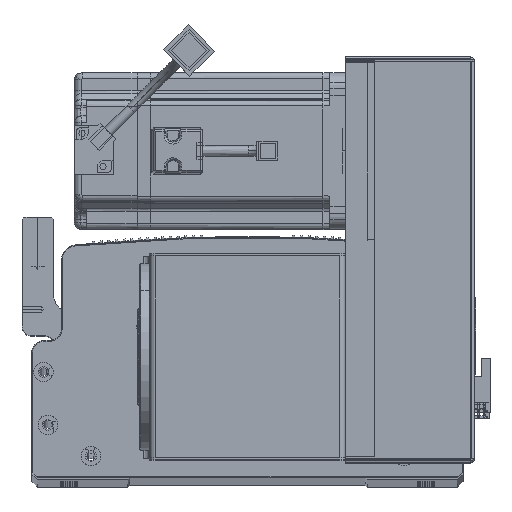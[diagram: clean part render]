
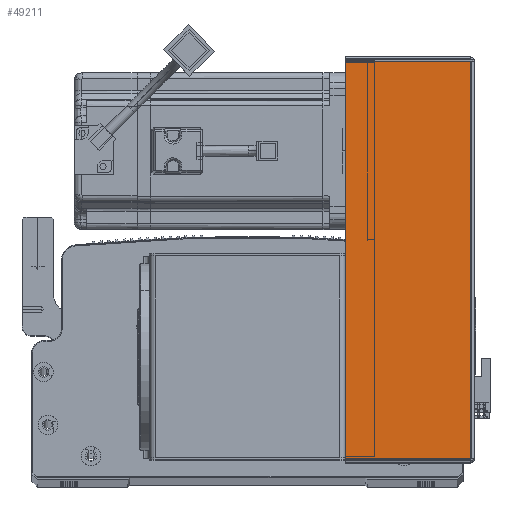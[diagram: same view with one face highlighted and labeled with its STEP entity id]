
A CAD part, top view. The second image highlights one B-rep face of the part: STEP entity #49211.
In plain terms, the highlighted planar face has unit normal (0, 0, 1) as drawn and (0, -1, 0) by its records, which use the part's own axes.
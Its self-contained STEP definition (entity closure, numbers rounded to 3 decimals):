
#537 = EDGE_CURVE ( 'NONE', #76809, #27865, #23240, .T. ) ;
#597 = PLANE ( 'NONE',  #91234 ) ;
#6263 = VERTEX_POINT ( 'NONE', #86089 ) ;
#7178 = CARTESIAN_POINT ( 'NONE',  ( 0., -1.5, -0.707 ) ) ;
#8121 = CARTESIAN_POINT ( 'NONE',  ( 0., -1.5, 0. ) ) ;
#8571 = VECTOR ( 'NONE', #12888, 1000. ) ;
#10910 = DIRECTION ( 'NONE',  ( 0., 0., 1. ) ) ;
#12888 = DIRECTION ( 'NONE',  ( 1., 0., 0. ) ) ;
#16580 = VECTOR ( 'NONE', #10910, 1000. ) ;
#18352 = EDGE_CURVE ( 'NONE', #76809, #6263, #83960, .T. ) ;
#23240 = LINE ( 'NONE', #62805, #8571 ) ;
#24091 = VECTOR ( 'NONE', #62739, 1000. ) ;
#26156 = CARTESIAN_POINT ( 'NONE',  ( 0.737, -1.5, 0. ) ) ;
#27865 = VERTEX_POINT ( 'NONE', #88740 ) ;
#29585 = DIRECTION ( 'NONE',  ( 0., 1., 0. ) ) ;
#29716 = CARTESIAN_POINT ( 'NONE',  ( 64.5, -1.5, -0.707 ) ) ;
#29906 = DIRECTION ( 'NONE',  ( -1., 0., 0. ) ) ;
#30238 = CARTESIAN_POINT ( 'NONE',  ( 64.5, -1.5, 0. ) ) ;
#31618 = ORIENTED_EDGE ( 'NONE', *, *, #88145, .T. ) ;
#41287 = EDGE_LOOP ( 'NONE', ( #72115, #85627, #31618, #52011 ) ) ;
#49211 = ADVANCED_FACE ( 'NONE', ( #61669 ), #597, .F. ) ;
#51877 = CARTESIAN_POINT ( 'NONE',  ( 0.737, -1.5, -203.293 ) ) ;
#52011 = ORIENTED_EDGE ( 'NONE', *, *, #85589, .F. ) ;
#53100 = VERTEX_POINT ( 'NONE', #29716 ) ;
#61669 = FACE_OUTER_BOUND ( 'NONE', #41287, .T. ) ;
#62739 = DIRECTION ( 'NONE',  ( 0., 0., 1. ) ) ;
#62805 = CARTESIAN_POINT ( 'NONE',  ( 0., -1.5, -203.293 ) ) ;
#64301 = LINE ( 'NONE', #7178, #75657 ) ;
#72115 = ORIENTED_EDGE ( 'NONE', *, *, #18352, .F. ) ;
#74269 = LINE ( 'NONE', #30238, #16580 ) ;
#75657 = VECTOR ( 'NONE', #86127, 1000. ) ;
#76809 = VERTEX_POINT ( 'NONE', #51877 ) ;
#83960 = LINE ( 'NONE', #26156, #24091 ) ;
#85589 = EDGE_CURVE ( 'NONE', #6263, #53100, #64301, .T. ) ;
#85627 = ORIENTED_EDGE ( 'NONE', *, *, #537, .T. ) ;
#86089 = CARTESIAN_POINT ( 'NONE',  ( 0.737, -1.5, -0.707 ) ) ;
#86127 = DIRECTION ( 'NONE',  ( 1., 0., 0. ) ) ;
#88145 = EDGE_CURVE ( 'NONE', #27865, #53100, #74269, .T. ) ;
#88740 = CARTESIAN_POINT ( 'NONE',  ( 64.5, -1.5, -203.293 ) ) ;
#91234 = AXIS2_PLACEMENT_3D ( 'NONE', #8121, #29585, #29906 ) ;
